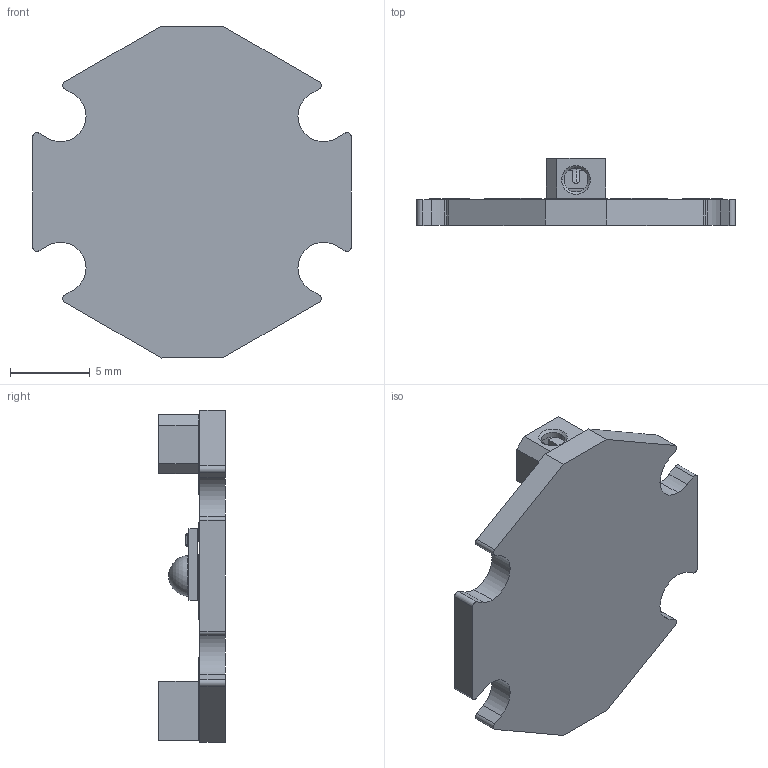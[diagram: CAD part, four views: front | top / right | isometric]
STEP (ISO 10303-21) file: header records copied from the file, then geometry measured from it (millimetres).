
FILE_DESCRIPTION (( 'STEP AP214' ), '1' );
FILE_NAME ('SW-01.STEP', '2023-11-14T02:08:25', ( '' ), ( '' ), 'SwSTEP 2.0', 'SolidWorks 2021', '' );
FILE_SCHEMA (( 'AUTOMOTIVE_DESIGN' ));
Length unit declared in the file: millimetre
Products named in the file (1): SW-01
Bounding box: 19.9 x 4.18 x 20.77 mm (x, y, z)
Volume: 541.3 mm3; surface area: 999.9 mm2
Topology: 6 solids, 6 shells, 685 faces, 1815 edges, 1191 vertices
Faces by surface type: plane 464, cylinder 118, bspline 83, cone 8, torus 6, sphere 6
Entity records: 30756 total; most frequent: CARTESIAN_POINT 8199, ORIENTED_EDGE 3616, DIRECTION 3103, EDGE_CURVE 1808, VECTOR 1387, LINE 1387, VERTEX_POINT 1190, AXIS2_PLACEMENT_3D 858
